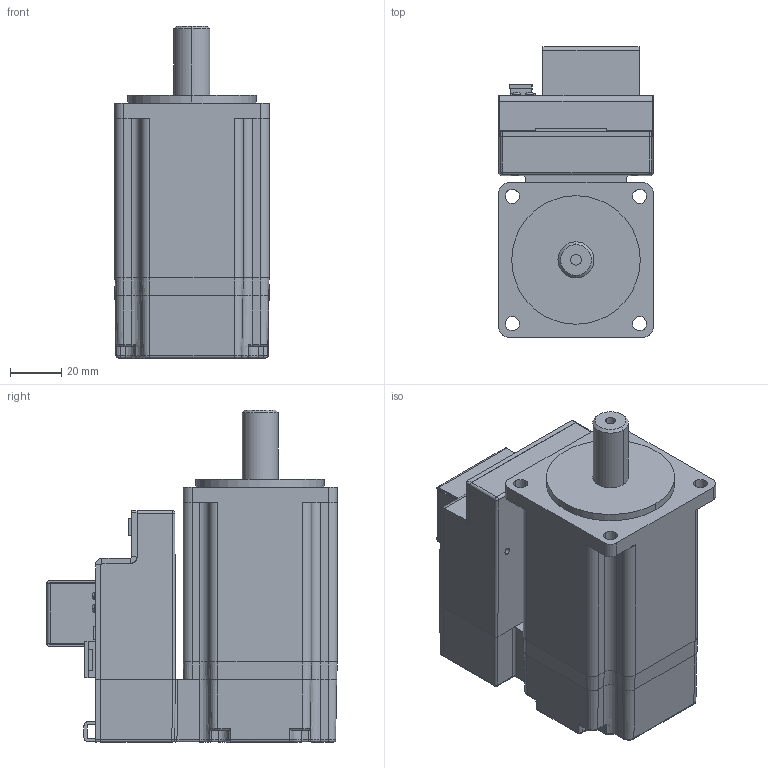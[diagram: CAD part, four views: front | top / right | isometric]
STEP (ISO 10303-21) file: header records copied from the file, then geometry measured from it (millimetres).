
FILE_DESCRIPTION (( 'STEP AP214' ), '1' );
FILE_NAME ('MD60-020-DMAK-EA-000.STEP', '2021-01-05T21:25:37', ( '' ), ( '' ), 'SwSTEP 2.0', 'SolidWorks 2020', '' );
FILE_SCHEMA (( 'AUTOMOTIVE_DESIGN' ));
Length unit declared in the file: inch
Products named in the file (25): C0VER1; MD60HT; PUDP-16V-S; ZLH-100V330UF; 0226-22XX; WAKOU; REAR_COVER_ASM; PCA1_ASM; MD60-020-DMAK-EA-000; PCA_ASM; MOTOR; B12B-PUDSS-1; PCB1; PC_7MM; PUDP-12V-S; TIM_PCB1; MD60HS; CJTA2008WV-2X8P; PCB4; PH2-CHAZHUO-L-R; LED1; MD60PCB2; B16B-PUDSS-1; CJTA2008WV-4P; XJ
Assembly tree (26 placements, depth 5):
  MD60-020-DMAK-EA-000
    REAR_COVER_ASM
      MOTOR
      PC_7MM
      TIM_PCB1
      PCA_ASM
        PCA1_ASM
          PCB1
          MD60PCB2
          PCB4
        PH2-CHAZHUO-L-R  x2
        CJTA2008WV-4P
        0226-22XX
        LED1
        WAKOU  x2
        CJTA2008WV-2X8P
        B12B-PUDSS-1
        PUDP-12V-S
        ZLH-100V330UF
        B16B-PUDSS-1
        PUDP-16V-S
    MD60HT
    MD60HS
    C0VER1
    XJ
Bounding box: 60.01 x 113.1 x 129.2 mm (x, y, z)
Volume: 378518.5 mm3; surface area: 135334.1 mm2
Topology: 27 solids, 27 shells, 2832 faces, 7046 edges, 4583 vertices
Faces by surface type: plane 1962, cylinder 661, bspline 139, cone 66, torus 4
Entity records: 87810 total; most frequent: CARTESIAN_POINT 24714, ORIENTED_EDGE 13186, DIRECTION 11758, EDGE_CURVE 6593, LINE 4880, VECTOR 4880, VERTEX_POINT 4291, AXIS2_PLACEMENT_3D 3439
